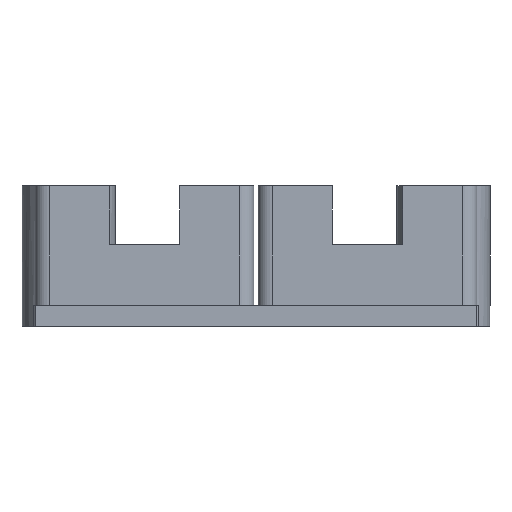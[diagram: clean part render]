
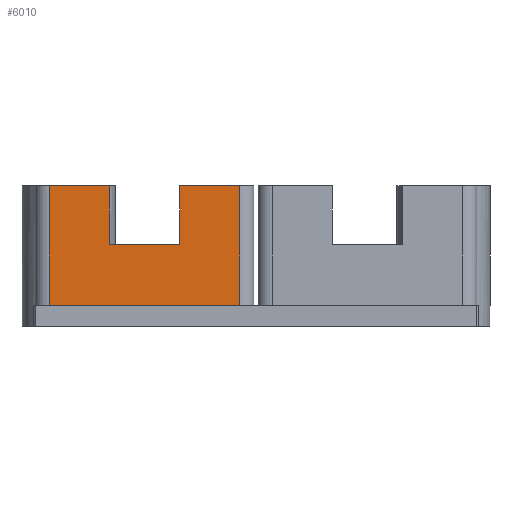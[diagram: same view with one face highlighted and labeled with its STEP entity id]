
A CAD part, front view. The second image highlights one B-rep face of the part: STEP entity #6010.
In plain terms, the highlighted planar face has unit normal (0, -1, 0).
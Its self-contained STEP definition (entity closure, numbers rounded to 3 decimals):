
#836 = PLANE('',#837);
#837 = AXIS2_PLACEMENT_3D('',#838,#839,#840);
#838 = CARTESIAN_POINT('',(-37.925,0.175,11.8));
#839 = DIRECTION('',(0.,0.,1.));
#840 = DIRECTION('',(1.,0.,0.));
#1016 = PLANE('',#1017);
#1017 = AXIS2_PLACEMENT_3D('',#1018,#1019,#1020);
#1018 = CARTESIAN_POINT('',(-18.875,19.225,22.));
#1019 = DIRECTION('',(0.,0.,1.));
#1020 = DIRECTION('',(1.,0.,0.));
#1042 = CYLINDRICAL_SURFACE('',#1043,1.2);
#1043 = AXIS2_PLACEMENT_3D('',#1044,#1045,#1046);
#1044 = CARTESIAN_POINT('',(-17.675,20.425,11.8));
#1045 = DIRECTION('',(0.,0.,1.));
#1046 = DIRECTION('',(-1.,-0.,0.));
#3372 = VERTEX_POINT('',#3373);
#3373 = CARTESIAN_POINT('',(-1.375,19.225,11.8));
#3392 = CYLINDRICAL_SURFACE('',#3393,1.2);
#3393 = AXIS2_PLACEMENT_3D('',#3394,#3395,#3396);
#3394 = CARTESIAN_POINT('',(-1.375,20.425,11.8));
#3395 = DIRECTION('',(0.,0.,1.));
#3396 = DIRECTION('',(1.,0.,-0.));
#3404 = EDGE_CURVE('',#3405,#3372,#3407,.T.);
#3405 = VERTEX_POINT('',#3406);
#3406 = CARTESIAN_POINT('',(-17.675,19.225,11.8));
#3407 = SURFACE_CURVE('',#3408,(#3412,#3419),.PCURVE_S1.);
#3408 = LINE('',#3409,#3410);
#3409 = CARTESIAN_POINT('',(-18.875,19.225,11.8));
#3410 = VECTOR('',#3411,1.);
#3411 = DIRECTION('',(1.,0.,0.));
#3412 = PCURVE('',#836,#3413);
#3413 = DEFINITIONAL_REPRESENTATION('',(#3414),#3418);
#3414 = LINE('',#3415,#3416);
#3415 = CARTESIAN_POINT('',(19.05,19.05));
#3416 = VECTOR('',#3417,1.);
#3417 = DIRECTION('',(1.,0.));
#3418 = ( GEOMETRIC_REPRESENTATION_CONTEXT(2) 
PARAMETRIC_REPRESENTATION_CONTEXT() REPRESENTATION_CONTEXT('2D SPACE',''
  ) );
#3419 = PCURVE('',#3420,#3425);
#3420 = PLANE('',#3421);
#3421 = AXIS2_PLACEMENT_3D('',#3422,#3423,#3424);
#3422 = CARTESIAN_POINT('',(-18.875,19.225,11.8));
#3423 = DIRECTION('',(0.,1.,0.));
#3424 = DIRECTION('',(0.,0.,1.));
#3425 = DEFINITIONAL_REPRESENTATION('',(#3426),#3430);
#3426 = LINE('',#3427,#3428);
#3427 = CARTESIAN_POINT('',(0.,0.));
#3428 = VECTOR('',#3429,1.);
#3429 = DIRECTION('',(0.,1.));
#3430 = ( GEOMETRIC_REPRESENTATION_CONTEXT(2) 
PARAMETRIC_REPRESENTATION_CONTEXT() REPRESENTATION_CONTEXT('2D SPACE',''
  ) );
#3458 = EDGE_CURVE('',#3405,#3459,#3461,.T.);
#3459 = VERTEX_POINT('',#3460);
#3460 = CARTESIAN_POINT('',(-17.675,19.225,22.));
#3461 = SURFACE_CURVE('',#3462,(#3466,#3473),.PCURVE_S1.);
#3462 = LINE('',#3463,#3464);
#3463 = CARTESIAN_POINT('',(-17.675,19.225,11.8));
#3464 = VECTOR('',#3465,1.);
#3465 = DIRECTION('',(0.,0.,1.));
#3466 = PCURVE('',#1042,#3467);
#3467 = DEFINITIONAL_REPRESENTATION('',(#3468),#3472);
#3468 = LINE('',#3469,#3470);
#3469 = CARTESIAN_POINT('',(1.571,0.));
#3470 = VECTOR('',#3471,1.);
#3471 = DIRECTION('',(0.,1.));
#3472 = ( GEOMETRIC_REPRESENTATION_CONTEXT(2) 
PARAMETRIC_REPRESENTATION_CONTEXT() REPRESENTATION_CONTEXT('2D SPACE',''
  ) );
#3473 = PCURVE('',#3420,#3474);
#3474 = DEFINITIONAL_REPRESENTATION('',(#3475),#3479);
#3475 = LINE('',#3476,#3477);
#3476 = CARTESIAN_POINT('',(0.,1.2));
#3477 = VECTOR('',#3478,1.);
#3478 = DIRECTION('',(1.,0.));
#3479 = ( GEOMETRIC_REPRESENTATION_CONTEXT(2) 
PARAMETRIC_REPRESENTATION_CONTEXT() REPRESENTATION_CONTEXT('2D SPACE',''
  ) );
#3509 = EDGE_CURVE('',#3459,#3510,#3512,.T.);
#3510 = VERTEX_POINT('',#3511);
#3511 = CARTESIAN_POINT('',(-12.525,19.225,22.));
#3512 = SURFACE_CURVE('',#3513,(#3517,#3524),.PCURVE_S1.);
#3513 = LINE('',#3514,#3515);
#3514 = CARTESIAN_POINT('',(-18.875,19.225,22.));
#3515 = VECTOR('',#3516,1.);
#3516 = DIRECTION('',(1.,0.,0.));
#3517 = PCURVE('',#1016,#3518);
#3518 = DEFINITIONAL_REPRESENTATION('',(#3519),#3523);
#3519 = LINE('',#3520,#3521);
#3520 = CARTESIAN_POINT('',(0.,0.));
#3521 = VECTOR('',#3522,1.);
#3522 = DIRECTION('',(1.,0.));
#3523 = ( GEOMETRIC_REPRESENTATION_CONTEXT(2) 
PARAMETRIC_REPRESENTATION_CONTEXT() REPRESENTATION_CONTEXT('2D SPACE',''
  ) );
#3524 = PCURVE('',#3420,#3525);
#3525 = DEFINITIONAL_REPRESENTATION('',(#3526),#3530);
#3526 = LINE('',#3527,#3528);
#3527 = CARTESIAN_POINT('',(10.2,0.));
#3528 = VECTOR('',#3529,1.);
#3529 = DIRECTION('',(0.,1.));
#3530 = ( GEOMETRIC_REPRESENTATION_CONTEXT(2) 
PARAMETRIC_REPRESENTATION_CONTEXT() REPRESENTATION_CONTEXT('2D SPACE',''
  ) );
#3547 = PLANE('',#3548);
#3548 = AXIS2_PLACEMENT_3D('',#3549,#3550,#3551);
#3549 = CARTESIAN_POINT('',(-12.525,18.075,17.));
#3550 = DIRECTION('',(1.,0.,0.));
#3551 = DIRECTION('',(0.,0.,1.));
#6010 = ADVANCED_FACE('',(#6011),#3420,.F.);
#6011 = FACE_BOUND('',#6012,.F.);
#6012 = EDGE_LOOP('',(#6013,#6014,#6015,#6016,#6037,#6063,#6089,#6117));
#6013 = ORIENTED_EDGE('',*,*,#3404,.F.);
#6014 = ORIENTED_EDGE('',*,*,#3458,.T.);
#6015 = ORIENTED_EDGE('',*,*,#3509,.T.);
#6016 = ORIENTED_EDGE('',*,*,#6017,.T.);
#6017 = EDGE_CURVE('',#3510,#6018,#6020,.T.);
#6018 = VERTEX_POINT('',#6019);
#6019 = CARTESIAN_POINT('',(-12.525,19.225,17.));
#6020 = SURFACE_CURVE('',#6021,(#6025,#6031),.PCURVE_S1.);
#6021 = LINE('',#6022,#6023);
#6022 = CARTESIAN_POINT('',(-12.525,19.225,14.4));
#6023 = VECTOR('',#6024,1.);
#6024 = DIRECTION('',(0.,0.,-1.));
#6025 = PCURVE('',#3420,#6026);
#6026 = DEFINITIONAL_REPRESENTATION('',(#6027),#6030);
#6027 = B_SPLINE_CURVE_WITH_KNOTS('',1,(#6028,#6029),.UNSPECIFIED.,.F.,
  .F.,(2,2),(-7.6,-2.6),.PIECEWISE_BEZIER_KNOTS.);
#6028 = CARTESIAN_POINT('',(10.2,6.35));
#6029 = CARTESIAN_POINT('',(5.2,6.35));
#6030 = ( GEOMETRIC_REPRESENTATION_CONTEXT(2) 
PARAMETRIC_REPRESENTATION_CONTEXT() REPRESENTATION_CONTEXT('2D SPACE',''
  ) );
#6031 = PCURVE('',#3547,#6032);
#6032 = DEFINITIONAL_REPRESENTATION('',(#6033),#6036);
#6033 = B_SPLINE_CURVE_WITH_KNOTS('',1,(#6034,#6035),.UNSPECIFIED.,.F.,
  .F.,(2,2),(-7.6,-2.6),.PIECEWISE_BEZIER_KNOTS.);
#6034 = CARTESIAN_POINT('',(5.,-1.15));
#6035 = CARTESIAN_POINT('',(0.,-1.15));
#6036 = ( GEOMETRIC_REPRESENTATION_CONTEXT(2) 
PARAMETRIC_REPRESENTATION_CONTEXT() REPRESENTATION_CONTEXT('2D SPACE',''
  ) );
#6037 = ORIENTED_EDGE('',*,*,#6038,.T.);
#6038 = EDGE_CURVE('',#6018,#6039,#6041,.T.);
#6039 = VERTEX_POINT('',#6040);
#6040 = CARTESIAN_POINT('',(-6.525,19.225,17.));
#6041 = SURFACE_CURVE('',#6042,(#6046,#6052),.PCURVE_S1.);
#6042 = LINE('',#6043,#6044);
#6043 = CARTESIAN_POINT('',(-15.7,19.225,17.));
#6044 = VECTOR('',#6045,1.);
#6045 = DIRECTION('',(1.,0.,0.));
#6046 = PCURVE('',#3420,#6047);
#6047 = DEFINITIONAL_REPRESENTATION('',(#6048),#6051);
#6048 = B_SPLINE_CURVE_WITH_KNOTS('',1,(#6049,#6050),.UNSPECIFIED.,.F.,
  .F.,(2,2),(3.175,9.175),.PIECEWISE_BEZIER_KNOTS.);
#6049 = CARTESIAN_POINT('',(5.2,6.35));
#6050 = CARTESIAN_POINT('',(5.2,12.35));
#6051 = ( GEOMETRIC_REPRESENTATION_CONTEXT(2) 
PARAMETRIC_REPRESENTATION_CONTEXT() REPRESENTATION_CONTEXT('2D SPACE',''
  ) );
#6052 = PCURVE('',#6053,#6058);
#6053 = PLANE('',#6054);
#6054 = AXIS2_PLACEMENT_3D('',#6055,#6056,#6057);
#6055 = CARTESIAN_POINT('',(-12.525,18.075,17.));
#6056 = DIRECTION('',(0.,0.,1.));
#6057 = DIRECTION('',(1.,0.,0.));
#6058 = DEFINITIONAL_REPRESENTATION('',(#6059),#6062);
#6059 = B_SPLINE_CURVE_WITH_KNOTS('',1,(#6060,#6061),.UNSPECIFIED.,.F.,
  .F.,(2,2),(3.175,9.175),.PIECEWISE_BEZIER_KNOTS.);
#6060 = CARTESIAN_POINT('',(0.,1.15));
#6061 = CARTESIAN_POINT('',(6.,1.15));
#6062 = ( GEOMETRIC_REPRESENTATION_CONTEXT(2) 
PARAMETRIC_REPRESENTATION_CONTEXT() REPRESENTATION_CONTEXT('2D SPACE',''
  ) );
#6063 = ORIENTED_EDGE('',*,*,#6064,.F.);
#6064 = EDGE_CURVE('',#6065,#6039,#6067,.T.);
#6065 = VERTEX_POINT('',#6066);
#6066 = CARTESIAN_POINT('',(-6.525,19.225,22.));
#6067 = SURFACE_CURVE('',#6068,(#6072,#6078),.PCURVE_S1.);
#6068 = LINE('',#6069,#6070);
#6069 = CARTESIAN_POINT('',(-6.525,19.225,14.4));
#6070 = VECTOR('',#6071,1.);
#6071 = DIRECTION('',(0.,0.,-1.));
#6072 = PCURVE('',#3420,#6073);
#6073 = DEFINITIONAL_REPRESENTATION('',(#6074),#6077);
#6074 = B_SPLINE_CURVE_WITH_KNOTS('',1,(#6075,#6076),.UNSPECIFIED.,.F.,
  .F.,(2,2),(-7.6,-2.6),.PIECEWISE_BEZIER_KNOTS.);
#6075 = CARTESIAN_POINT('',(10.2,12.35));
#6076 = CARTESIAN_POINT('',(5.2,12.35));
#6077 = ( GEOMETRIC_REPRESENTATION_CONTEXT(2) 
PARAMETRIC_REPRESENTATION_CONTEXT() REPRESENTATION_CONTEXT('2D SPACE',''
  ) );
#6078 = PCURVE('',#6079,#6084);
#6079 = PLANE('',#6080);
#6080 = AXIS2_PLACEMENT_3D('',#6081,#6082,#6083);
#6081 = CARTESIAN_POINT('',(-6.525,18.075,17.));
#6082 = DIRECTION('',(1.,0.,0.));
#6083 = DIRECTION('',(0.,0.,1.));
#6084 = DEFINITIONAL_REPRESENTATION('',(#6085),#6088);
#6085 = B_SPLINE_CURVE_WITH_KNOTS('',1,(#6086,#6087),.UNSPECIFIED.,.F.,
  .F.,(2,2),(-7.6,-2.6),.PIECEWISE_BEZIER_KNOTS.);
#6086 = CARTESIAN_POINT('',(5.,-1.15));
#6087 = CARTESIAN_POINT('',(0.,-1.15));
#6088 = ( GEOMETRIC_REPRESENTATION_CONTEXT(2) 
PARAMETRIC_REPRESENTATION_CONTEXT() REPRESENTATION_CONTEXT('2D SPACE',''
  ) );
#6089 = ORIENTED_EDGE('',*,*,#6090,.T.);
#6090 = EDGE_CURVE('',#6065,#6091,#6093,.T.);
#6091 = VERTEX_POINT('',#6092);
#6092 = CARTESIAN_POINT('',(-1.375,19.225,22.));
#6093 = SURFACE_CURVE('',#6094,(#6098,#6105),.PCURVE_S1.);
#6094 = LINE('',#6095,#6096);
#6095 = CARTESIAN_POINT('',(-18.875,19.225,22.));
#6096 = VECTOR('',#6097,1.);
#6097 = DIRECTION('',(1.,0.,0.));
#6098 = PCURVE('',#3420,#6099);
#6099 = DEFINITIONAL_REPRESENTATION('',(#6100),#6104);
#6100 = LINE('',#6101,#6102);
#6101 = CARTESIAN_POINT('',(10.2,0.));
#6102 = VECTOR('',#6103,1.);
#6103 = DIRECTION('',(0.,1.));
#6104 = ( GEOMETRIC_REPRESENTATION_CONTEXT(2) 
PARAMETRIC_REPRESENTATION_CONTEXT() REPRESENTATION_CONTEXT('2D SPACE',''
  ) );
#6105 = PCURVE('',#6106,#6111);
#6106 = PLANE('',#6107);
#6107 = AXIS2_PLACEMENT_3D('',#6108,#6109,#6110);
#6108 = CARTESIAN_POINT('',(-18.875,19.225,22.));
#6109 = DIRECTION('',(0.,0.,1.));
#6110 = DIRECTION('',(1.,0.,0.));
#6111 = DEFINITIONAL_REPRESENTATION('',(#6112),#6116);
#6112 = LINE('',#6113,#6114);
#6113 = CARTESIAN_POINT('',(0.,0.));
#6114 = VECTOR('',#6115,1.);
#6115 = DIRECTION('',(1.,0.));
#6116 = ( GEOMETRIC_REPRESENTATION_CONTEXT(2) 
PARAMETRIC_REPRESENTATION_CONTEXT() REPRESENTATION_CONTEXT('2D SPACE',''
  ) );
#6117 = ORIENTED_EDGE('',*,*,#6118,.F.);
#6118 = EDGE_CURVE('',#3372,#6091,#6119,.T.);
#6119 = SURFACE_CURVE('',#6120,(#6124,#6131),.PCURVE_S1.);
#6120 = LINE('',#6121,#6122);
#6121 = CARTESIAN_POINT('',(-1.375,19.225,11.8));
#6122 = VECTOR('',#6123,1.);
#6123 = DIRECTION('',(0.,0.,1.));
#6124 = PCURVE('',#3420,#6125);
#6125 = DEFINITIONAL_REPRESENTATION('',(#6126),#6130);
#6126 = LINE('',#6127,#6128);
#6127 = CARTESIAN_POINT('',(0.,17.5));
#6128 = VECTOR('',#6129,1.);
#6129 = DIRECTION('',(1.,0.));
#6130 = ( GEOMETRIC_REPRESENTATION_CONTEXT(2) 
PARAMETRIC_REPRESENTATION_CONTEXT() REPRESENTATION_CONTEXT('2D SPACE',''
  ) );
#6131 = PCURVE('',#3392,#6132);
#6132 = DEFINITIONAL_REPRESENTATION('',(#6133),#6137);
#6133 = LINE('',#6134,#6135);
#6134 = CARTESIAN_POINT('',(-1.571,0.));
#6135 = VECTOR('',#6136,1.);
#6136 = DIRECTION('',(-0.,1.));
#6137 = ( GEOMETRIC_REPRESENTATION_CONTEXT(2) 
PARAMETRIC_REPRESENTATION_CONTEXT() REPRESENTATION_CONTEXT('2D SPACE',''
  ) );
